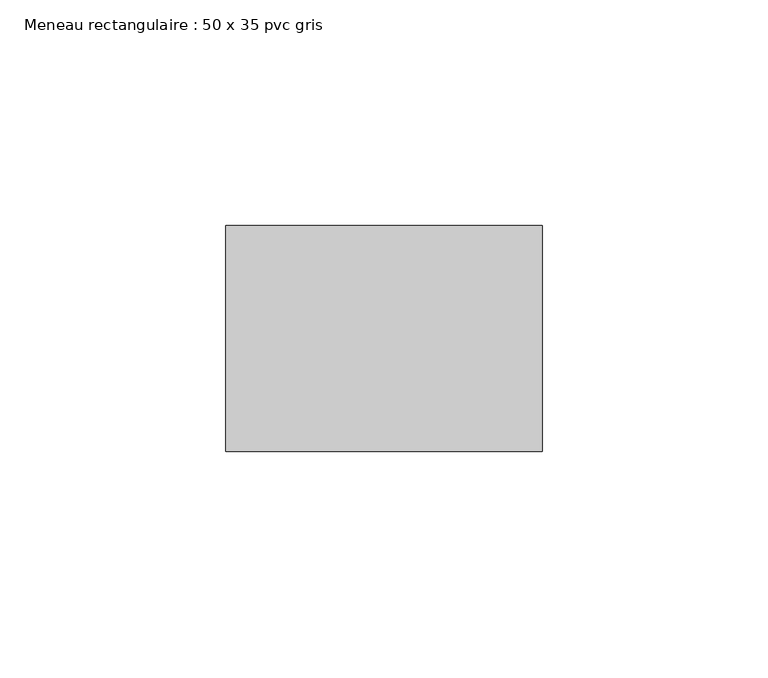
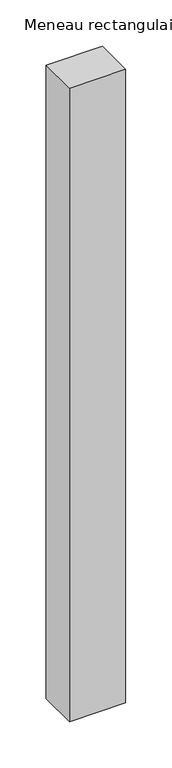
"""IFC4 building model written with IfcOpenShell, lengths in millimetres: member geometry, Meneau rectangulaire : 50 x 35 pvc gris."""

from ifc_helpers import new_model, si_unit, frame, origin, place, context, project, spatial, polyline, outline, extrude, source, transform, mapped, element, save


def meneau_rectangulaire_50_x_35_pvc_gris_4da7197a(model_context):
    return source(origin(), model_context, "Body", "SweptSolid", [
        extrude(outline(polyline([(35.0, 0.0), (35.0, -50.0), (-35.0, -50.0), (-35.0, 0.0), (35.0, 0.0)])), frame((0.0, 0.0, -833.0), z_axis=(0.0, 0.0, 1.0), x_axis=(1.0, 0.0, 0.0)), (0.0, 0.0, 1.0), 833.0),
    ])


if __name__ == "__main__":
    model = new_model("IFC4")
    model_context = context("Model", 3, world=origin())
    ifc_project = project(units=[si_unit("LENGTHUNIT", "METRE", prefix="MILLI")], contexts=[model_context])
    site = spatial("IfcSite", under=ifc_project)
    building = spatial("IfcBuilding", under=site)
    placement = place(None, origin())
    meneau_rectangulaire_50_x_35_pvc_gris_shape = meneau_rectangulaire_50_x_35_pvc_gris_4da7197a(model_context)
    element("IfcMember", 1, ObjectType="Meneau rectangulaire : 50 x 35 pvc gris", at=placement, inside=building, context=model_context, shape_type="MappedRepresentation", body=[
        mapped(meneau_rectangulaire_50_x_35_pvc_gris_shape, transform((0.0, 0.0, 0.0), x_axis=(1.0, 0.0, 0.0), y_axis=(0.0, 1.0, 0.0), z_axis=(0.0, 0.0, 1.0))),
    ])
    save(model, "model.ifc")
